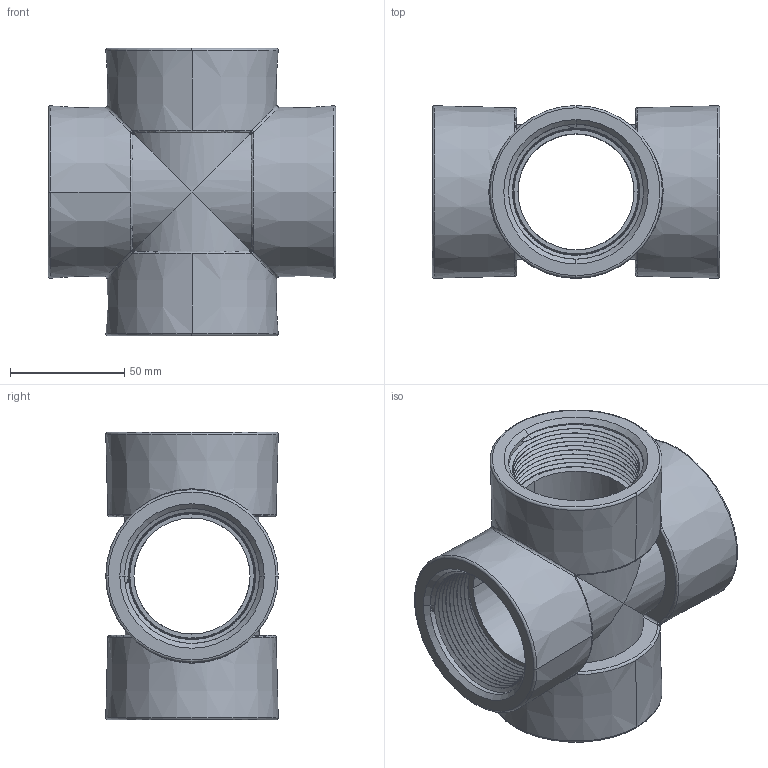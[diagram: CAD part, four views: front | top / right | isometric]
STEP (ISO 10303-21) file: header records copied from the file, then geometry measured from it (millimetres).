
FILE_DESCRIPTION(/* description */ ('Alibre Inc.'),/* implementation_level */ '2;1');
FILE_NAME(/* name */ 'export0',/* time_stamp */ '2019-10-07T13:48:23-04:00',/* author */ (''),/* organization */ (''),/* preprocessor_version */ 'ST-DEVELOPER v17',/* originating_system */ 'Alibre',/* authorisation */ '');
FILE_SCHEMA (('CONFIG_CONTROL_DESIGN'));
Length unit declared in the file: inch
Products named in the file (1): 200-62202-1000CZ
Bounding box: 125.8 x 75.5 x 125.8 mm (x, y, z)
Volume: 303111.7 mm3; surface area: 92856.6 mm2
Topology: 1 solids, 1 shells, 239 faces, 613 edges, 372 vertices
Faces by surface type: cone 103, bspline 80, cylinder 24, plane 16, torus 16
Entity records: 105830 total; most frequent: CARTESIAN_POINT 101409, ORIENTED_EDGE 1222, EDGE_CURVE 611, DIRECTION 407, B_SPLINE_CURVE_WITH_KNOTS 388, VERTEX_POINT 378, EDGE_LOOP 249, FACE_BOUND 249
